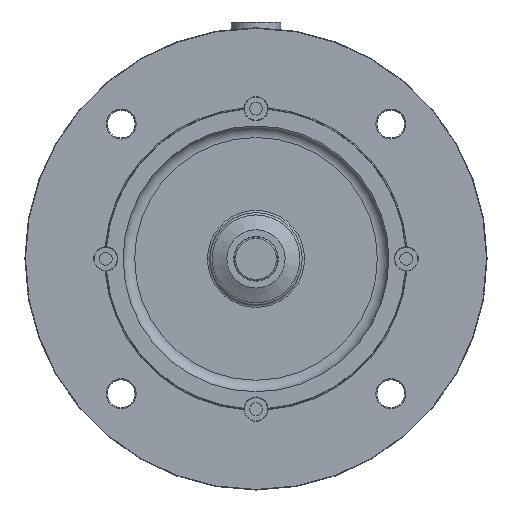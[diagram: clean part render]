
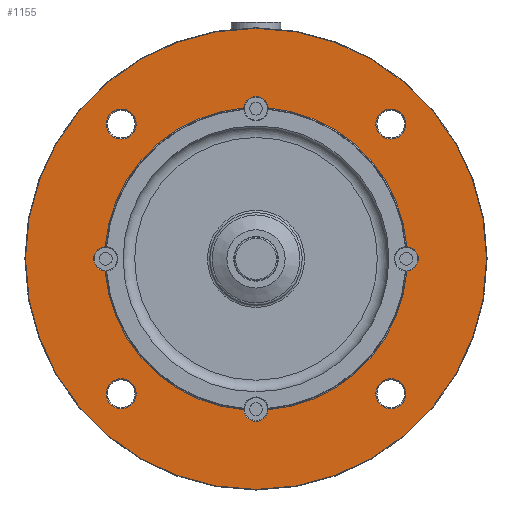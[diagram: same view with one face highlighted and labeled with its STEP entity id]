
A CAD part, front view. The second image highlights one B-rep face of the part: STEP entity #1155.
In plain terms, the highlighted planar face has unit normal (0, -1, 0).
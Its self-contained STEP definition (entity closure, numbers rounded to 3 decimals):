
#465=PLANE('',#6847);
#578=FACE_BOUND('',#2150,.T.);
#579=FACE_BOUND('',#2151,.T.);
#580=FACE_BOUND('',#2152,.T.);
#581=FACE_BOUND('',#2153,.T.);
#582=FACE_BOUND('',#2154,.T.);
#1155=ADVANCED_FACE('',(#1839,#578,#579,#580,#581,#582),#465,.T.);
#1839=FACE_OUTER_BOUND('',#2149,.T.);
#2149=EDGE_LOOP('',(#3359));
#2150=EDGE_LOOP('',(#3360));
#2151=EDGE_LOOP('',(#3361));
#2152=EDGE_LOOP('',(#3362));
#2153=EDGE_LOOP('',(#3363));
#2154=EDGE_LOOP('',(#3364,#3365,#3366,#3367,#3368,#3369,#3370,#3371));
#3359=ORIENTED_EDGE('',*,*,#5513,.T.);
#3360=ORIENTED_EDGE('',*,*,#5514,.T.);
#3361=ORIENTED_EDGE('',*,*,#5515,.T.);
#3362=ORIENTED_EDGE('',*,*,#5516,.T.);
#3363=ORIENTED_EDGE('',*,*,#5517,.T.);
#3364=ORIENTED_EDGE('',*,*,#5518,.T.);
#3365=ORIENTED_EDGE('',*,*,#5519,.T.);
#3366=ORIENTED_EDGE('',*,*,#5520,.T.);
#3367=ORIENTED_EDGE('',*,*,#5521,.T.);
#3368=ORIENTED_EDGE('',*,*,#5522,.T.);
#3369=ORIENTED_EDGE('',*,*,#5523,.T.);
#3370=ORIENTED_EDGE('',*,*,#5524,.T.);
#3371=ORIENTED_EDGE('',*,*,#5525,.T.);
#4877=VERTEX_POINT('',#10182);
#4878=VERTEX_POINT('',#10184);
#4879=VERTEX_POINT('',#10186);
#4880=VERTEX_POINT('',#10188);
#4881=VERTEX_POINT('',#10190);
#4882=VERTEX_POINT('',#10192);
#4883=VERTEX_POINT('',#10193);
#4884=VERTEX_POINT('',#10195);
#4885=VERTEX_POINT('',#10197);
#4886=VERTEX_POINT('',#10199);
#4887=VERTEX_POINT('',#10201);
#4888=VERTEX_POINT('',#10203);
#4889=VERTEX_POINT('',#10205);
#5513=EDGE_CURVE('',#4877,#4877,#6260,.T.);
#5514=EDGE_CURVE('',#4878,#4878,#6261,.T.);
#5515=EDGE_CURVE('',#4879,#4879,#6262,.T.);
#5516=EDGE_CURVE('',#4880,#4880,#6263,.T.);
#5517=EDGE_CURVE('',#4881,#4881,#6264,.T.);
#5518=EDGE_CURVE('',#4882,#4883,#6265,.T.);
#5519=EDGE_CURVE('',#4883,#4884,#6266,.T.);
#5520=EDGE_CURVE('',#4884,#4885,#6267,.T.);
#5521=EDGE_CURVE('',#4885,#4886,#6268,.T.);
#5522=EDGE_CURVE('',#4886,#4887,#6269,.T.);
#5523=EDGE_CURVE('',#4887,#4888,#6270,.T.);
#5524=EDGE_CURVE('',#4888,#4889,#6271,.T.);
#5525=EDGE_CURVE('',#4889,#4882,#6272,.T.);
#6260=CIRCLE('',#6834,99.75);
#6261=CIRCLE('',#6835,6.5);
#6262=CIRCLE('',#6836,6.5);
#6263=CIRCLE('',#6837,6.5);
#6264=CIRCLE('',#6838,6.5);
#6265=CIRCLE('',#6839,5.25);
#6266=CIRCLE('',#6840,65.5);
#6267=CIRCLE('',#6841,5.25);
#6268=CIRCLE('',#6842,65.5);
#6269=CIRCLE('',#6843,5.25);
#6270=CIRCLE('',#6844,65.5);
#6271=CIRCLE('',#6845,5.25);
#6272=CIRCLE('',#6846,65.5);
#6834=AXIS2_PLACEMENT_3D('',#10181,#7904,#7905);
#6835=AXIS2_PLACEMENT_3D('',#10183,#7906,#7907);
#6836=AXIS2_PLACEMENT_3D('',#10185,#7908,#7909);
#6837=AXIS2_PLACEMENT_3D('',#10187,#7910,#7911);
#6838=AXIS2_PLACEMENT_3D('',#10189,#7912,#7913);
#6839=AXIS2_PLACEMENT_3D('',#10191,#7914,#7915);
#6840=AXIS2_PLACEMENT_3D('',#10194,#7916,#7917);
#6841=AXIS2_PLACEMENT_3D('',#10196,#7918,#7919);
#6842=AXIS2_PLACEMENT_3D('',#10198,#7920,#7921);
#6843=AXIS2_PLACEMENT_3D('',#10200,#7922,#7923);
#6844=AXIS2_PLACEMENT_3D('',#10202,#7924,#7925);
#6845=AXIS2_PLACEMENT_3D('',#10204,#7926,#7927);
#6846=AXIS2_PLACEMENT_3D('',#10206,#7928,#7929);
#6847=AXIS2_PLACEMENT_3D('',#10207,#7930,#7931);
#7904=DIRECTION('',(0.,-1.,0.));
#7905=DIRECTION('',(0.,0.,-1.));
#7906=DIRECTION('',(0.,1.,0.));
#7907=DIRECTION('',(0.,0.,-1.));
#7908=DIRECTION('',(0.,1.,0.));
#7909=DIRECTION('',(0.,0.,-1.));
#7910=DIRECTION('',(0.,1.,0.));
#7911=DIRECTION('',(0.,0.,-1.));
#7912=DIRECTION('',(0.,1.,0.));
#7913=DIRECTION('',(0.,0.,-1.));
#7914=DIRECTION('',(0.,1.,0.));
#7915=DIRECTION('',(0.,0.,-1.));
#7916=DIRECTION('',(0.,1.,0.));
#7917=DIRECTION('',(0.,0.,-1.));
#7918=DIRECTION('',(0.,1.,0.));
#7919=DIRECTION('',(0.,0.,-1.));
#7920=DIRECTION('',(0.,1.,0.));
#7921=DIRECTION('',(0.,0.,-1.));
#7922=DIRECTION('',(0.,1.,0.));
#7923=DIRECTION('',(0.,0.,-1.));
#7924=DIRECTION('',(0.,1.,0.));
#7925=DIRECTION('',(0.,0.,-1.));
#7926=DIRECTION('',(0.,1.,0.));
#7927=DIRECTION('',(0.,0.,-1.));
#7928=DIRECTION('',(0.,1.,0.));
#7929=DIRECTION('',(0.,0.,-1.));
#7930=DIRECTION('',(0.,-1.,0.));
#7931=DIRECTION('',(0.,0.,-1.));
#10181=CARTESIAN_POINT('',(0.,0.,0.));
#10182=CARTESIAN_POINT('',(0.,0.,-99.75));
#10183=CARTESIAN_POINT('',(58.336,0.,58.336));
#10184=CARTESIAN_POINT('',(58.336,0.,51.836));
#10185=CARTESIAN_POINT('',(58.336,0.,-58.336));
#10186=CARTESIAN_POINT('',(58.336,0.,-64.836));
#10187=CARTESIAN_POINT('',(-58.336,0.,-58.336));
#10188=CARTESIAN_POINT('',(-58.336,0.,-64.836));
#10189=CARTESIAN_POINT('',(-58.336,0.,58.336));
#10190=CARTESIAN_POINT('',(-58.336,0.,51.836));
#10191=CARTESIAN_POINT('',(65.,0.,0.));
#10192=CARTESIAN_POINT('',(65.29,0.,5.242));
#10193=CARTESIAN_POINT('',(65.29,0.,-5.242));
#10194=CARTESIAN_POINT('',(0.,0.,0.));
#10195=CARTESIAN_POINT('',(5.242,0.,-65.29));
#10196=CARTESIAN_POINT('',(0.,0.,-65.));
#10197=CARTESIAN_POINT('',(-5.242,0.,-65.29));
#10198=CARTESIAN_POINT('',(0.,0.,0.));
#10199=CARTESIAN_POINT('',(-65.29,0.,-5.242));
#10200=CARTESIAN_POINT('',(-65.,0.,0.));
#10201=CARTESIAN_POINT('',(-65.29,0.,5.242));
#10202=CARTESIAN_POINT('',(0.,0.,0.));
#10203=CARTESIAN_POINT('',(-5.242,0.,65.29));
#10204=CARTESIAN_POINT('',(0.,0.,65.));
#10205=CARTESIAN_POINT('',(5.242,0.,65.29));
#10206=CARTESIAN_POINT('',(0.,0.,0.));
#10207=CARTESIAN_POINT('',(0.,0.,0.));
